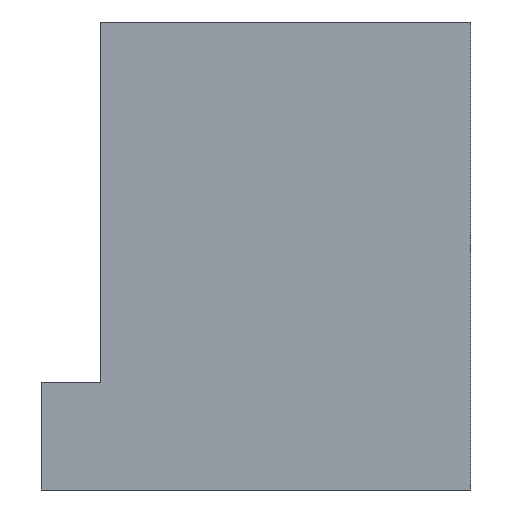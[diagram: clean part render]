
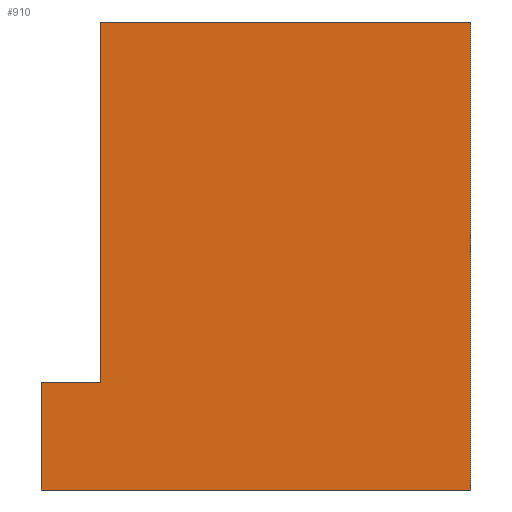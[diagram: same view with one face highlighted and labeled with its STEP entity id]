
A CAD part, left-side view. The second image highlights one B-rep face of the part: STEP entity #910.
In plain terms, the highlighted planar face has unit normal (-1, 0, 0).
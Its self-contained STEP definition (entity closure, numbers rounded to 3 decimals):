
#6=DIRECTION('',(0.,0.,-1.));
#7=VECTOR('',#6,18.5);
#8=CARTESIAN_POINT('',(-18.,8.,0.));
#9=LINE('',#8,#7);
#10=DIRECTION('',(0.,0.,-1.));
#11=VECTOR('',#10,5.5);
#12=CARTESIAN_POINT('',(-18.,11.,-18.5));
#13=LINE('',#12,#11);
#14=DIRECTION('',(0.,1.,0.));
#15=VECTOR('',#14,3.);
#16=CARTESIAN_POINT('',(-18.,8.,-18.5));
#17=LINE('',#16,#15);
#253=DIRECTION('',(0.,1.,0.));
#254=VECTOR('',#253,22.);
#255=CARTESIAN_POINT('',(-18.,-11.,-24.));
#256=LINE('',#255,#254);
#607=DIRECTION('',(0.,-1.,0.));
#608=VECTOR('',#607,19.);
#609=CARTESIAN_POINT('',(-18.,8.,0.));
#610=LINE('',#609,#608);
#660=DIRECTION('',(0.,0.,-1.));
#661=VECTOR('',#660,24.);
#662=CARTESIAN_POINT('',(-18.,-11.,0.));
#663=LINE('',#662,#661);
#696=CARTESIAN_POINT('',(-18.,11.,-18.5));
#697=CARTESIAN_POINT('',(-18.,11.,-24.));
#698=VERTEX_POINT('',#696);
#699=VERTEX_POINT('',#697);
#708=CARTESIAN_POINT('',(-18.,-11.,0.));
#709=VERTEX_POINT('',#708);
#710=CARTESIAN_POINT('',(-18.,-11.,-24.));
#711=VERTEX_POINT('',#710);
#713=CARTESIAN_POINT('',(-18.,8.,0.));
#715=VERTEX_POINT('',#713);
#720=CARTESIAN_POINT('',(-18.,8.,-18.5));
#721=VERTEX_POINT('',#720);
#892=CARTESIAN_POINT('',(-18.,0.,-24.));
#893=DIRECTION('',(-1.,0.,0.));
#894=DIRECTION('',(0.,0.,1.));
#895=AXIS2_PLACEMENT_3D('',#892,#893,#894);
#896=PLANE('',#895);
#898=ORIENTED_EDGE('',*,*,#897,.F.);
#900=ORIENTED_EDGE('',*,*,#899,.T.);
#902=ORIENTED_EDGE('',*,*,#901,.T.);
#904=ORIENTED_EDGE('',*,*,#903,.T.);
#905=ORIENTED_EDGE('',*,*,#881,.F.);
#907=ORIENTED_EDGE('',*,*,#906,.F.);
#908=EDGE_LOOP('',(#898,#900,#902,#904,#905,#907));
#909=FACE_OUTER_BOUND('',#908,.F.);
#881=EDGE_CURVE('',#698,#699,#13,.T.);
#897=EDGE_CURVE('',#715,#721,#9,.T.);
#899=EDGE_CURVE('',#715,#709,#610,.T.);
#901=EDGE_CURVE('',#709,#711,#663,.T.);
#903=EDGE_CURVE('',#711,#699,#256,.T.);
#906=EDGE_CURVE('',#721,#698,#17,.T.);
#910=ADVANCED_FACE('',(#909),#896,.T.);
